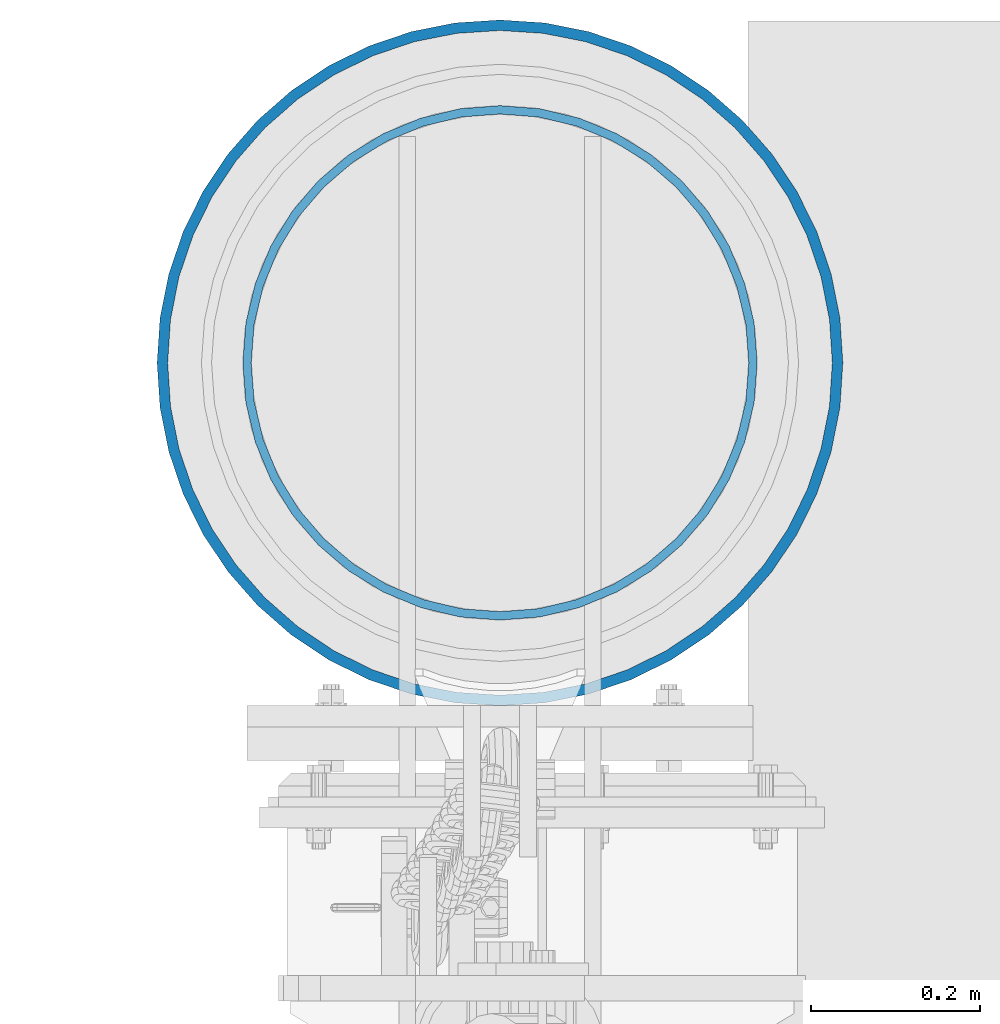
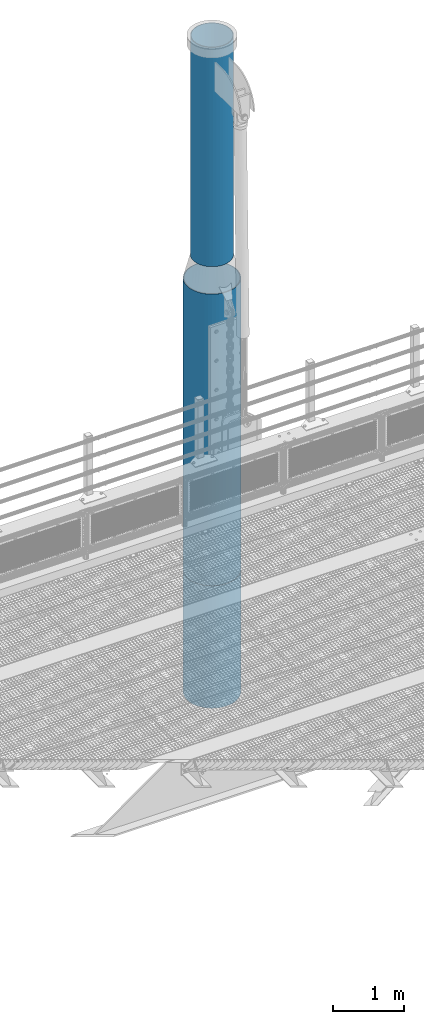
# One storey, part 110 of 1530: 3 columns.
"""IFC2X3 building model written with IfcOpenShell, lengths in millimetres."""

from ifc_helpers import new_model, si_unit, frame, origin_with_axes, place, context, subcontext, project, spatial, faceted_brep, material, type_object, element, save


model = new_model("IFC2X3")

# Units and contexts
model_context = context("Model", 3, precision=1e-05, world=origin_with_axes())
body_context = subcontext(model_context, "Body", "Model", "MODEL_VIEW")
ifc_project = project(units=[si_unit("LENGTHUNIT", "METRE", prefix="MILLI"), si_unit("AREAUNIT", "SQUARE_METRE"), si_unit("VOLUMEUNIT", "CUBIC_METRE"), si_unit("MASSUNIT", "GRAM", prefix="KILO"), si_unit("TIMEUNIT", "SECOND"), si_unit("PLANEANGLEUNIT", "RADIAN"), si_unit("SOLIDANGLEUNIT", "STERADIAN"), si_unit("THERMODYNAMICTEMPERATUREUNIT", "DEGREE_CELSIUS"), si_unit("LUMINOUSINTENSITYUNIT", "LUMEN")], contexts=[model_context])

# Site, building, storey
site_placement = place(None, origin_with_axes())
site = spatial("IfcSite", under=ifc_project, at=site_placement, Name="Brattvåg", CompositionType="ELEMENT")
building_placement = place(site_placement, origin_with_axes())
building = spatial("IfcBuilding", under=site, at=building_placement, Name="Undefined", CompositionType="ELEMENT")
storey_placement = place(building_placement, origin_with_axes())
storey = spatial("IfcBuildingStorey", under=building, at=storey_placement, Name="Undefined", CompositionType="ELEMENT", Elevation=0.0)

# Columns
ifc_material = material(Name="STEEL/Steel_Undefined")
column_type_1 = type_object("IfcColumnType", Name="Ø813*12.5", PredefinedType="NOTDEFINED")
column_1_placement = place(storey_placement, frame((12199.9995346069, 10321.5002708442, -2900.0), z_axis=(-1.0, 1.99999855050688e-09, 0.0), x_axis=(0.0, 0.0, 1.0)))
element("IfcColumn", 1, at=column_1_placement, inside=storey, type_object=column_type_1, material=ifc_material, Name="HEISTÅRN", context=body_context, shape_type="Brep", body=[
    faceted_brep([(0.0, -394.0, 0.0), (0.0, -390.629275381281, 51.4273197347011), (5000.0, -390.629275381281, 51.4273197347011), (5000.0, -394.0, 0.0), (0.0, -380.574775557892, 101.974703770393), (5000.0, -380.574775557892, 101.974703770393), (0.0, -364.008535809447, 150.777272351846), (5000.0, -364.008535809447, 150.777272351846), (0.0, -341.214009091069, 197.0), (5000.0, -341.214009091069, 197.0), (0.0, -312.581216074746, 239.852003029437), (5000.0, -312.581216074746, 239.852003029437), (0.0, -278.600071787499, 278.600071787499), (5000.0, -278.600071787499, 278.600071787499), (0.0, -239.852003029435, 312.581216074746), (5000.0, -239.852003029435, 312.581216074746), (0.0, -197.0, 341.214009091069), (5000.0, -197.0, 341.214009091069), (0.0, -150.777272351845, 364.008535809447), (5000.0, -150.777272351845, 364.008535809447), (0.0, -101.974703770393, 380.574775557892), (5000.0, -101.974703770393, 380.574775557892), (0.0, -51.4273197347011, 390.629275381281), (5000.0, -51.4273197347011, 390.629275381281), (0.0, 0.0, 394.0), (5000.0, 0.0, 394.0), (0.0, 51.4273197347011, 390.629275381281), (5000.0, 51.4273197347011, 390.629275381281), (0.0, 101.974703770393, 380.574775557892), (5000.0, 101.974703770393, 380.574775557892), (0.0, 150.777272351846, 364.008535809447), (5000.0, 150.777272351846, 364.008535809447), (0.0, 197.0, 341.214009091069), (5000.0, 197.0, 341.214009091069), (0.0, 239.852003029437, 312.581216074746), (5000.0, 239.852003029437, 312.581216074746), (0.0, 278.600071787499, 278.600071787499), (5000.0, 278.600071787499, 278.600071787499), (0.0, 312.581216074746, 239.852003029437), (5000.0, 312.581216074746, 239.852003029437), (0.0, 341.214009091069, 197.0), (5000.0, 341.214009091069, 197.0), (0.0, 364.008535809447, 150.777272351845), (5000.0, 364.008535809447, 150.777272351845), (0.0, 380.574775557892, 101.974703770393), (5000.0, 380.574775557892, 101.974703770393), (0.0, 390.629275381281, 51.4273197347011), (5000.0, 390.629275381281, 51.4273197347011), (0.0, 394.0, 0.0), (5000.0, 394.0, 0.0), (0.0, 390.629275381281, -51.4273197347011), (5000.0, 390.629275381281, -51.4273197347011), (0.0, 380.574775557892, -101.974703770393), (5000.0, 380.574775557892, -101.974703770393), (0.0, 364.008535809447, -150.777272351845), (5000.0, 364.008535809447, -150.777272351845), (0.0, 341.214009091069, -197.0), (5000.0, 341.214009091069, -197.0), (0.0, 312.581216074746, -239.852003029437), (5000.0, 312.581216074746, -239.852003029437), (0.0, 278.600071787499, -278.600071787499), (5000.0, 278.600071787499, -278.600071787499), (0.0, 239.852003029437, -312.581216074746), (5000.0, 239.852003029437, -312.581216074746), (0.0, 197.0, -341.214009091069), (5000.0, 197.0, -341.214009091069), (0.0, 150.777272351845, -364.008535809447), (5000.0, 150.777272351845, -364.008535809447), (0.0, 101.974703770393, -380.574775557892), (5000.0, 101.974703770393, -380.574775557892), (0.0, 51.4273197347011, -390.629275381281), (5000.0, 51.4273197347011, -390.629275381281), (0.0, 0.0, -394.0), (5000.0, 0.0, -394.0), (0.0, -51.4273197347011, -390.629275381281), (5000.0, -51.4273197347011, -390.629275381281), (0.0, -101.974703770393, -380.574775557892), (5000.0, -101.974703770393, -380.574775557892), (0.0, -150.777272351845, -364.008535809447), (5000.0, -150.777272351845, -364.008535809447), (0.0, -197.0, -341.214009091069), (5000.0, -197.0, -341.214009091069), (0.0, -239.852003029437, -312.581216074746), (5000.0, -239.852003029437, -312.581216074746), (0.0, -278.600071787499, -278.600071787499), (5000.0, -278.600071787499, -278.600071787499), (0.0, -312.581216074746, -239.852003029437), (5000.0, -312.581216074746, -239.852003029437), (0.0, -341.214009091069, -197.0), (5000.0, -341.214009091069, -197.0), (0.0, -364.008535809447, -150.777272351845), (5000.0, -364.008535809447, -150.777272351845), (0.0, -380.574775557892, -101.974703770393), (5000.0, -380.574775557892, -101.974703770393), (0.0, -390.629275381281, -51.4273197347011), (5000.0, -390.629275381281, -51.4273197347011), (0.0, -406.5, 0.0), (0.0, -403.022336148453, -53.0588971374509), (5000.0, -403.022336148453, -53.0588971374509), (5000.0, -406.5, 0.0), (0.0, -392.648848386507, -105.209941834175), (5000.0, -392.648848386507, -105.209941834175), (0.0, -375.557029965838, -155.560815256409), (5000.0, -375.557029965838, -155.560815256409), (0.0, -352.039326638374, -203.25), (5000.0, -352.039326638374, -203.25), (0.0, -322.498132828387, -247.461520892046), (5000.0, -322.498132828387, -247.461520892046), (0.0, -287.438906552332, -287.438906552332), (5000.0, -287.438906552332, -287.438906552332), (0.0, -247.461520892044, -322.498132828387), (5000.0, -247.461520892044, -322.498132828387), (0.0, -203.25, -352.039326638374), (5000.0, -203.25, -352.039326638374), (0.0, -155.560815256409, -375.557029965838), (5000.0, -155.560815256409, -375.557029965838), (0.0, -105.209941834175, -392.648848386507), (5000.0, -105.209941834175, -392.648848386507), (0.0, -53.0588971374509, -403.022336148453), (5000.0, -53.0588971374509, -403.022336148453), (0.0, 0.0, -406.5), (5000.0, 0.0, -406.5), (0.0, 53.0588971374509, -403.022336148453), (5000.0, 53.0588971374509, -403.022336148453), (0.0, 105.209941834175, -392.648848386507), (5000.0, 105.209941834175, -392.648848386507), (0.0, 155.560815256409, -375.557029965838), (5000.0, 155.560815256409, -375.557029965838), (0.0, 203.25, -352.039326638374), (5000.0, 203.25, -352.039326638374), (0.0, 247.461520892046, -322.498132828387), (5000.0, 247.461520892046, -322.498132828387), (0.0, 287.438906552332, -287.438906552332), (5000.0, 287.438906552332, -287.438906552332), (0.0, 322.498132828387, -247.461520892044), (5000.0, 322.498132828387, -247.461520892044), (0.0, 352.039326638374, -203.25), (5000.0, 352.039326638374, -203.25), (0.0, 375.557029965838, -155.560815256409), (5000.0, 375.557029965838, -155.560815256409), (0.0, 392.648848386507, -105.209941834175), (5000.0, 392.648848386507, -105.209941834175), (0.0, 403.022336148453, -53.0588971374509), (5000.0, 403.022336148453, -53.0588971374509), (0.0, 406.5, 0.0), (5000.0, 406.5, 0.0), (0.0, 403.022336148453, 53.0588971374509), (5000.0, 403.022336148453, 53.0588971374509), (0.0, 392.648848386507, 105.209941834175), (5000.0, 392.648848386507, 105.209941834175), (0.0, 375.557029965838, 155.560815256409), (5000.0, 375.557029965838, 155.560815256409), (0.0, 352.039326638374, 203.25), (5000.0, 352.039326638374, 203.25), (0.0, 322.498132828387, 247.461520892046), (5000.0, 322.498132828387, 247.461520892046), (0.0, 287.438906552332, 287.438906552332), (5000.0, 287.438906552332, 287.438906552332), (0.0, 247.461520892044, 322.498132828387), (5000.0, 247.461520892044, 322.498132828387), (0.0, 203.25, 352.039326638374), (5000.0, 203.25, 352.039326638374), (0.0, 155.560815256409, 375.557029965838), (5000.0, 155.560815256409, 375.557029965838), (0.0, 105.209941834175, 392.648848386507), (5000.0, 105.209941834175, 392.648848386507), (0.0, 53.0588971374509, 403.022336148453), (5000.0, 53.0588971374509, 403.022336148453), (0.0, 0.0, 406.5), (5000.0, 0.0, 406.5), (0.0, -53.0588971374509, 403.022336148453), (5000.0, -53.0588971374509, 403.022336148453), (0.0, -105.209941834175, 392.648848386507), (5000.0, -105.209941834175, 392.648848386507), (0.0, -155.560815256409, 375.557029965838), (5000.0, -155.560815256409, 375.557029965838), (0.0, -203.25, 352.039326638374), (5000.0, -203.25, 352.039326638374), (0.0, -247.461520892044, 322.498132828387), (5000.0, -247.461520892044, 322.498132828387), (0.0, -287.438906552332, 287.438906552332), (5000.0, -287.438906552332, 287.438906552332), (0.0, -322.498132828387, 247.461520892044), (5000.0, -322.498132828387, 247.461520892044), (0.0, -352.039326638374, 203.25), (5000.0, -352.039326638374, 203.25), (0.0, -375.557029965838, 155.560815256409), (5000.0, -375.557029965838, 155.560815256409), (0.0, -392.648848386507, 105.209941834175), (5000.0, -392.648848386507, 105.209941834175), (0.0, -403.022336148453, 53.0588971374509), (5000.0, -403.022336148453, 53.0588971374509)], [[[0, 1, 2, 3]], [[1, 4, 5, 2]], [[4, 6, 7, 5]], [[6, 8, 9, 7]], [[8, 10, 11, 9]], [[10, 12, 13, 11]], [[12, 14, 15, 13]], [[14, 16, 17, 15]], [[16, 18, 19, 17]], [[18, 20, 21, 19]], [[20, 22, 23, 21]], [[22, 24, 25, 23]], [[24, 26, 27, 25]], [[26, 28, 29, 27]], [[28, 30, 31, 29]], [[30, 32, 33, 31]], [[32, 34, 35, 33]], [[34, 36, 37, 35]], [[36, 38, 39, 37]], [[38, 40, 41, 39]], [[40, 42, 43, 41]], [[42, 44, 45, 43]], [[44, 46, 47, 45]], [[46, 48, 49, 47]], [[48, 50, 51, 49]], [[50, 52, 53, 51]], [[52, 54, 55, 53]], [[54, 56, 57, 55]], [[56, 58, 59, 57]], [[58, 60, 61, 59]], [[60, 62, 63, 61]], [[62, 64, 65, 63]], [[64, 66, 67, 65]], [[66, 68, 69, 67]], [[68, 70, 71, 69]], [[70, 72, 73, 71]], [[72, 74, 75, 73]], [[74, 76, 77, 75]], [[76, 78, 79, 77]], [[78, 80, 81, 79]], [[80, 82, 83, 81]], [[82, 84, 85, 83]], [[84, 86, 87, 85]], [[86, 88, 89, 87]], [[88, 90, 91, 89]], [[90, 92, 93, 91]], [[92, 94, 95, 93]], [[94, 0, 3, 95]], [[96, 97, 98, 99]], [[97, 100, 101, 98]], [[100, 102, 103, 101]], [[102, 104, 105, 103]], [[104, 106, 107, 105]], [[106, 108, 109, 107]], [[108, 110, 111, 109]], [[110, 112, 113, 111]], [[112, 114, 115, 113]], [[114, 116, 117, 115]], [[116, 118, 119, 117]], [[118, 120, 121, 119]], [[120, 122, 123, 121]], [[122, 124, 125, 123]], [[124, 126, 127, 125]], [[126, 128, 129, 127]], [[128, 130, 131, 129]], [[130, 132, 133, 131]], [[132, 134, 135, 133]], [[134, 136, 137, 135]], [[136, 138, 139, 137]], [[138, 140, 141, 139]], [[140, 142, 143, 141]], [[142, 144, 145, 143]], [[144, 146, 147, 145]], [[146, 148, 149, 147]], [[148, 150, 151, 149]], [[150, 152, 153, 151]], [[152, 154, 155, 153]], [[154, 156, 157, 155]], [[156, 158, 159, 157]], [[158, 160, 161, 159]], [[160, 162, 163, 161]], [[162, 164, 165, 163]], [[164, 166, 167, 165]], [[166, 168, 169, 167]], [[168, 170, 171, 169]], [[170, 172, 173, 171]], [[172, 174, 175, 173]], [[174, 176, 177, 175]], [[176, 178, 179, 177]], [[178, 180, 181, 179]], [[180, 182, 183, 181]], [[182, 184, 185, 183]], [[184, 186, 187, 185]], [[186, 188, 189, 187]], [[188, 190, 191, 189]], [[190, 96, 99, 191]], [[101, 103, 105, 107, 109, 111, 113, 115, 117, 119, 121, 123, 125, 127, 129, 131, 133, 135, 137, 139, 141, 143, 145, 147, 149, 151, 153, 155, 157, 159, 161, 163, 165, 167, 169, 171, 173, 175, 177, 179, 181, 183, 185, 187, 189, 191, 99, 98], [5, 7, 9, 11, 13, 15, 17, 19, 21, 23, 25, 27, 29, 31, 33, 35, 37, 39, 41, 43, 45, 47, 49, 51, 53, 55, 57, 59, 61, 63, 65, 67, 69, 71, 73, 75, 77, 79, 81, 83, 85, 87, 89, 91, 93, 95, 3, 2]], [[190, 188, 186, 184, 182, 180, 178, 176, 174, 172, 170, 168, 166, 164, 162, 160, 158, 156, 154, 152, 150, 148, 146, 144, 142, 140, 138, 136, 134, 132, 130, 128, 126, 124, 122, 120, 118, 116, 114, 112, 110, 108, 106, 104, 102, 100, 97, 96], [94, 92, 90, 88, 86, 84, 82, 80, 78, 76, 74, 72, 70, 68, 66, 64, 62, 60, 58, 56, 54, 52, 50, 48, 46, 44, 42, 40, 38, 36, 34, 32, 30, 28, 26, 24, 22, 20, 18, 16, 14, 12, 10, 8, 6, 4, 1, 0]]]),
])
column_2_placement = place(storey_placement, frame((12199.9995346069, 10321.5002708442, -5000.0), z_axis=(-1.0, 1.99999855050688e-09, 0.0), x_axis=(0.0, 0.0, 1.0)))
element("IfcColumn", 2, at=column_2_placement, inside=storey, type_object=column_type_1, material=ifc_material, Name="HEISTÅRN", context=body_context, shape_type="Brep", body=[
    faceted_brep([(0.0, -394.0, 0.0), (0.0, -390.629275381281, 51.4273197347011), (2100.0, -390.629275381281, 51.4273197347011), (2100.0, -394.0, 0.0), (0.0, -380.574775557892, 101.974703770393), (2100.0, -380.574775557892, 101.974703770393), (0.0, -364.008535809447, 150.777272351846), (2100.0, -364.008535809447, 150.777272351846), (0.0, -341.214009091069, 197.0), (2100.0, -341.214009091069, 197.0), (0.0, -312.581216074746, 239.852003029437), (2100.0, -312.581216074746, 239.852003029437), (0.0, -278.600071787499, 278.600071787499), (2100.0, -278.600071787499, 278.600071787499), (0.0, -239.852003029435, 312.581216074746), (2100.0, -239.852003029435, 312.581216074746), (0.0, -197.0, 341.214009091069), (2100.0, -197.0, 341.214009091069), (0.0, -150.777272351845, 364.008535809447), (2100.0, -150.777272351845, 364.008535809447), (0.0, -101.974703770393, 380.574775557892), (2100.0, -101.974703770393, 380.574775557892), (0.0, -51.4273197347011, 390.629275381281), (2100.0, -51.4273197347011, 390.629275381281), (0.0, 0.0, 394.0), (2100.0, 0.0, 394.0), (0.0, 51.4273197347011, 390.629275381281), (2100.0, 51.4273197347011, 390.629275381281), (0.0, 101.974703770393, 380.574775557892), (2100.0, 101.974703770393, 380.574775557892), (0.0, 150.777272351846, 364.008535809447), (2100.0, 150.777272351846, 364.008535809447), (0.0, 197.0, 341.214009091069), (2100.0, 197.0, 341.214009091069), (0.0, 239.852003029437, 312.581216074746), (2100.0, 239.852003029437, 312.581216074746), (0.0, 278.600071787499, 278.600071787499), (2100.0, 278.600071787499, 278.600071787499), (0.0, 312.581216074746, 239.852003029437), (2100.0, 312.581216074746, 239.852003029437), (0.0, 341.214009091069, 197.0), (2100.0, 341.214009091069, 197.0), (0.0, 364.008535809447, 150.777272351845), (2100.0, 364.008535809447, 150.777272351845), (0.0, 380.574775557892, 101.974703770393), (2100.0, 380.574775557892, 101.974703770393), (0.0, 390.629275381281, 51.4273197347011), (2100.0, 390.629275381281, 51.4273197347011), (0.0, 394.0, 0.0), (2100.0, 394.0, 0.0), (0.0, 390.629275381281, -51.4273197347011), (2100.0, 390.629275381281, -51.4273197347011), (0.0, 380.574775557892, -101.974703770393), (2100.0, 380.574775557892, -101.974703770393), (0.0, 364.008535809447, -150.777272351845), (2100.0, 364.008535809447, -150.777272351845), (0.0, 341.214009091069, -197.0), (2100.0, 341.214009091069, -197.0), (0.0, 312.581216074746, -239.852003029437), (2100.0, 312.581216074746, -239.852003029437), (0.0, 278.600071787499, -278.600071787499), (2100.0, 278.600071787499, -278.600071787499), (0.0, 239.852003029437, -312.581216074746), (2100.0, 239.852003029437, -312.581216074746), (0.0, 197.0, -341.214009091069), (2100.0, 197.0, -341.214009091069), (0.0, 150.777272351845, -364.008535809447), (2100.0, 150.777272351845, -364.008535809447), (0.0, 101.974703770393, -380.574775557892), (2100.0, 101.974703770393, -380.574775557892), (0.0, 51.4273197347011, -390.629275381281), (2100.0, 51.4273197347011, -390.629275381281), (0.0, 0.0, -394.0), (2100.0, 0.0, -394.0), (0.0, -51.4273197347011, -390.629275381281), (2100.0, -51.4273197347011, -390.629275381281), (0.0, -101.974703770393, -380.574775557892), (2100.0, -101.974703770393, -380.574775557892), (0.0, -150.777272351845, -364.008535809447), (2100.0, -150.777272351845, -364.008535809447), (0.0, -197.0, -341.214009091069), (2100.0, -197.0, -341.214009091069), (0.0, -239.852003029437, -312.581216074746), (2100.0, -239.852003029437, -312.581216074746), (0.0, -278.600071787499, -278.600071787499), (2100.0, -278.600071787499, -278.600071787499), (0.0, -312.581216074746, -239.852003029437), (2100.0, -312.581216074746, -239.852003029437), (0.0, -341.214009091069, -197.0), (2100.0, -341.214009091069, -197.0), (0.0, -364.008535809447, -150.777272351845), (2100.0, -364.008535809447, -150.777272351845), (0.0, -380.574775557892, -101.974703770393), (2100.0, -380.574775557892, -101.974703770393), (0.0, -390.629275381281, -51.4273197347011), (2100.0, -390.629275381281, -51.4273197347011), (0.0, -406.5, 0.0), (0.0, -403.022336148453, -53.0588971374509), (2100.0, -403.022336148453, -53.0588971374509), (2100.0, -406.5, 0.0), (0.0, -392.648848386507, -105.209941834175), (2100.0, -392.648848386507, -105.209941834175), (0.0, -375.557029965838, -155.560815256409), (2100.0, -375.557029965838, -155.560815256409), (0.0, -352.039326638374, -203.25), (2100.0, -352.039326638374, -203.25), (0.0, -322.498132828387, -247.461520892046), (2100.0, -322.498132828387, -247.461520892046), (0.0, -287.438906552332, -287.438906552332), (2100.0, -287.438906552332, -287.438906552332), (0.0, -247.461520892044, -322.498132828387), (2100.0, -247.461520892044, -322.498132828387), (0.0, -203.25, -352.039326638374), (2100.0, -203.25, -352.039326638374), (0.0, -155.560815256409, -375.557029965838), (2100.0, -155.560815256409, -375.557029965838), (0.0, -105.209941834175, -392.648848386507), (2100.0, -105.209941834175, -392.648848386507), (0.0, -53.0588971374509, -403.022336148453), (2100.0, -53.0588971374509, -403.022336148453), (0.0, 0.0, -406.5), (2100.0, 0.0, -406.5), (0.0, 53.0588971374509, -403.022336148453), (2100.0, 53.0588971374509, -403.022336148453), (0.0, 105.209941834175, -392.648848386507), (2100.0, 105.209941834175, -392.648848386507), (0.0, 155.560815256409, -375.557029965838), (2100.0, 155.560815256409, -375.557029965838), (0.0, 203.25, -352.039326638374), (2100.0, 203.25, -352.039326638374), (0.0, 247.461520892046, -322.498132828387), (2100.0, 247.461520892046, -322.498132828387), (0.0, 287.438906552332, -287.438906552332), (2100.0, 287.438906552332, -287.438906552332), (0.0, 322.498132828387, -247.461520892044), (2100.0, 322.498132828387, -247.461520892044), (0.0, 352.039326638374, -203.25), (2100.0, 352.039326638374, -203.25), (0.0, 375.557029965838, -155.560815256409), (2100.0, 375.557029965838, -155.560815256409), (0.0, 392.648848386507, -105.209941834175), (2100.0, 392.648848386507, -105.209941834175), (0.0, 403.022336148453, -53.0588971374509), (2100.0, 403.022336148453, -53.0588971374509), (0.0, 406.5, 0.0), (2100.0, 406.5, 0.0), (0.0, 403.022336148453, 53.0588971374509), (2100.0, 403.022336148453, 53.0588971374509), (0.0, 392.648848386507, 105.209941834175), (2100.0, 392.648848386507, 105.209941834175), (0.0, 375.557029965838, 155.560815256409), (2100.0, 375.557029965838, 155.560815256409), (0.0, 352.039326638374, 203.25), (2100.0, 352.039326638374, 203.25), (0.0, 322.498132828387, 247.461520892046), (2100.0, 322.498132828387, 247.461520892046), (0.0, 287.438906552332, 287.438906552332), (2100.0, 287.438906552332, 287.438906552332), (0.0, 247.461520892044, 322.498132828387), (2100.0, 247.461520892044, 322.498132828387), (0.0, 203.25, 352.039326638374), (2100.0, 203.25, 352.039326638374), (0.0, 155.560815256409, 375.557029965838), (2100.0, 155.560815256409, 375.557029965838), (0.0, 105.209941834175, 392.648848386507), (2100.0, 105.209941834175, 392.648848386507), (0.0, 53.0588971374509, 403.022336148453), (2100.0, 53.0588971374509, 403.022336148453), (0.0, 0.0, 406.5), (2100.0, 0.0, 406.5), (0.0, -53.0588971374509, 403.022336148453), (2100.0, -53.0588971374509, 403.022336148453), (0.0, -105.209941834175, 392.648848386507), (2100.0, -105.209941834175, 392.648848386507), (0.0, -155.560815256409, 375.557029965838), (2100.0, -155.560815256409, 375.557029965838), (0.0, -203.25, 352.039326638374), (2100.0, -203.25, 352.039326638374), (0.0, -247.461520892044, 322.498132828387), (2100.0, -247.461520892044, 322.498132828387), (0.0, -287.438906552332, 287.438906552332), (2100.0, -287.438906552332, 287.438906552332), (0.0, -322.498132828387, 247.461520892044), (2100.0, -322.498132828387, 247.461520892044), (0.0, -352.039326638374, 203.25), (2100.0, -352.039326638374, 203.25), (0.0, -375.557029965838, 155.560815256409), (2100.0, -375.557029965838, 155.560815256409), (0.0, -392.648848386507, 105.209941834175), (2100.0, -392.648848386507, 105.209941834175), (0.0, -403.022336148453, 53.0588971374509), (2100.0, -403.022336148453, 53.0588971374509)], [[[0, 1, 2, 3]], [[1, 4, 5, 2]], [[4, 6, 7, 5]], [[6, 8, 9, 7]], [[8, 10, 11, 9]], [[10, 12, 13, 11]], [[12, 14, 15, 13]], [[14, 16, 17, 15]], [[16, 18, 19, 17]], [[18, 20, 21, 19]], [[20, 22, 23, 21]], [[22, 24, 25, 23]], [[24, 26, 27, 25]], [[26, 28, 29, 27]], [[28, 30, 31, 29]], [[30, 32, 33, 31]], [[32, 34, 35, 33]], [[34, 36, 37, 35]], [[36, 38, 39, 37]], [[38, 40, 41, 39]], [[40, 42, 43, 41]], [[42, 44, 45, 43]], [[44, 46, 47, 45]], [[46, 48, 49, 47]], [[48, 50, 51, 49]], [[50, 52, 53, 51]], [[52, 54, 55, 53]], [[54, 56, 57, 55]], [[56, 58, 59, 57]], [[58, 60, 61, 59]], [[60, 62, 63, 61]], [[62, 64, 65, 63]], [[64, 66, 67, 65]], [[66, 68, 69, 67]], [[68, 70, 71, 69]], [[70, 72, 73, 71]], [[72, 74, 75, 73]], [[74, 76, 77, 75]], [[76, 78, 79, 77]], [[78, 80, 81, 79]], [[80, 82, 83, 81]], [[82, 84, 85, 83]], [[84, 86, 87, 85]], [[86, 88, 89, 87]], [[88, 90, 91, 89]], [[90, 92, 93, 91]], [[92, 94, 95, 93]], [[94, 0, 3, 95]], [[96, 97, 98, 99]], [[97, 100, 101, 98]], [[100, 102, 103, 101]], [[102, 104, 105, 103]], [[104, 106, 107, 105]], [[106, 108, 109, 107]], [[108, 110, 111, 109]], [[110, 112, 113, 111]], [[112, 114, 115, 113]], [[114, 116, 117, 115]], [[116, 118, 119, 117]], [[118, 120, 121, 119]], [[120, 122, 123, 121]], [[122, 124, 125, 123]], [[124, 126, 127, 125]], [[126, 128, 129, 127]], [[128, 130, 131, 129]], [[130, 132, 133, 131]], [[132, 134, 135, 133]], [[134, 136, 137, 135]], [[136, 138, 139, 137]], [[138, 140, 141, 139]], [[140, 142, 143, 141]], [[142, 144, 145, 143]], [[144, 146, 147, 145]], [[146, 148, 149, 147]], [[148, 150, 151, 149]], [[150, 152, 153, 151]], [[152, 154, 155, 153]], [[154, 156, 157, 155]], [[156, 158, 159, 157]], [[158, 160, 161, 159]], [[160, 162, 163, 161]], [[162, 164, 165, 163]], [[164, 166, 167, 165]], [[166, 168, 169, 167]], [[168, 170, 171, 169]], [[170, 172, 173, 171]], [[172, 174, 175, 173]], [[174, 176, 177, 175]], [[176, 178, 179, 177]], [[178, 180, 181, 179]], [[180, 182, 183, 181]], [[182, 184, 185, 183]], [[184, 186, 187, 185]], [[186, 188, 189, 187]], [[188, 190, 191, 189]], [[190, 96, 99, 191]], [[101, 103, 105, 107, 109, 111, 113, 115, 117, 119, 121, 123, 125, 127, 129, 131, 133, 135, 137, 139, 141, 143, 145, 147, 149, 151, 153, 155, 157, 159, 161, 163, 165, 167, 169, 171, 173, 175, 177, 179, 181, 183, 185, 187, 189, 191, 99, 98], [5, 7, 9, 11, 13, 15, 17, 19, 21, 23, 25, 27, 29, 31, 33, 35, 37, 39, 41, 43, 45, 47, 49, 51, 53, 55, 57, 59, 61, 63, 65, 67, 69, 71, 73, 75, 77, 79, 81, 83, 85, 87, 89, 91, 93, 95, 3, 2]], [[190, 188, 186, 184, 182, 180, 178, 176, 174, 172, 170, 168, 166, 164, 162, 160, 158, 156, 154, 152, 150, 148, 146, 144, 142, 140, 138, 136, 134, 132, 130, 128, 126, 124, 122, 120, 118, 116, 114, 112, 110, 108, 106, 104, 102, 100, 97, 96], [94, 92, 90, 88, 86, 84, 82, 80, 78, 76, 74, 72, 70, 68, 66, 64, 62, 60, 58, 56, 54, 52, 50, 48, 46, 44, 42, 40, 38, 36, 34, 32, 30, 28, 26, 24, 22, 20, 18, 16, 14, 12, 10, 8, 6, 4, 1, 0]]]),
])
column_type_2 = type_object("IfcColumnType", Name="Ø610*10", PredefinedType="NOTDEFINED")
column_3_placement = place(storey_placement, frame((12199.9995346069, 10321.5002708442, 2500.0), z_axis=(-1.0, 1.99999855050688e-09, 0.0), x_axis=(0.0, 0.0, 1.0)))
element("IfcColumn", 3, at=column_3_placement, inside=storey, type_object=column_type_2, material=ifc_material, Name="HEISTÅRN", context=body_context, shape_type="Brep", body=[
    faceted_brep([(0.0, -295.0, 0.0), (0.0, -291.368060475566, 46.1481671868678), (3760.0, -291.368060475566, 46.1481671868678), (3760.0, -295.0, 0.0), (0.0, -280.561672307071, 91.16001334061), (3760.0, -280.561672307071, 91.16001334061), (0.0, -262.846924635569, 133.927197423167), (3760.0, -262.846924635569, 133.927197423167), (0.0, -238.66001334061, 173.39664942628), (3760.0, -238.66001334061, 173.39664942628), (0.0, -208.596500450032, 208.596500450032), (3760.0, -208.596500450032, 208.596500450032), (0.0, -173.396649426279, 238.66001334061), (3760.0, -173.396649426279, 238.66001334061), (0.0, -133.927197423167, 262.846924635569), (3760.0, -133.927197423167, 262.846924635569), (0.0, -91.16001334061, 280.561672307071), (3760.0, -91.16001334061, 280.561672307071), (0.0, -46.1481671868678, 291.368060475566), (3760.0, -46.1481671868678, 291.368060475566), (0.0, 0.0, 295.0), (3760.0, 0.0, 295.0), (0.0, 46.1481671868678, 291.368060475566), (3760.0, 46.1481671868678, 291.368060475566), (0.0, 91.16001334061, 280.561672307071), (3760.0, 91.16001334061, 280.561672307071), (0.0, 133.927197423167, 262.846924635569), (3760.0, 133.927197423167, 262.846924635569), (0.0, 173.39664942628, 238.66001334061), (3760.0, 173.39664942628, 238.66001334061), (0.0, 208.596500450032, 208.596500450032), (3760.0, 208.596500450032, 208.596500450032), (0.0, 238.66001334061, 173.39664942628), (3760.0, 238.66001334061, 173.39664942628), (0.0, 262.846924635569, 133.927197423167), (3760.0, 262.846924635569, 133.927197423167), (0.0, 280.561672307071, 91.16001334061), (3760.0, 280.561672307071, 91.16001334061), (0.0, 291.368060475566, 46.1481671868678), (3760.0, 291.368060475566, 46.1481671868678), (0.0, 295.0, 0.0), (3760.0, 295.0, 0.0), (0.0, 291.368060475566, -46.1481671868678), (3760.0, 291.368060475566, -46.1481671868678), (0.0, 280.561672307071, -91.16001334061), (3760.0, 280.561672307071, -91.16001334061), (0.0, 262.846924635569, -133.927197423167), (3760.0, 262.846924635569, -133.927197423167), (0.0, 238.66001334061, -173.39664942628), (3760.0, 238.66001334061, -173.39664942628), (0.0, 208.596500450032, -208.596500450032), (3760.0, 208.596500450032, -208.596500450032), (0.0, 173.39664942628, -238.66001334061), (3760.0, 173.39664942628, -238.66001334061), (0.0, 133.927197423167, -262.846924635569), (3760.0, 133.927197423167, -262.846924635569), (0.0, 91.16001334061, -280.561672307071), (3760.0, 91.16001334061, -280.561672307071), (0.0, 46.1481671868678, -291.368060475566), (3760.0, 46.1481671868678, -291.368060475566), (0.0, 0.0, -295.0), (3760.0, 0.0, -295.0), (0.0, -46.1481671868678, -291.368060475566), (3760.0, -46.1481671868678, -291.368060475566), (0.0, -91.16001334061, -280.561672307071), (3760.0, -91.16001334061, -280.561672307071), (0.0, -133.927197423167, -262.846924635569), (3760.0, -133.927197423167, -262.846924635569), (0.0, -173.39664942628, -238.66001334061), (3760.0, -173.39664942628, -238.66001334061), (0.0, -208.596500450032, -208.596500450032), (3760.0, -208.596500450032, -208.596500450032), (0.0, -238.66001334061, -173.39664942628), (3760.0, -238.66001334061, -173.39664942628), (0.0, -262.846924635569, -133.927197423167), (3760.0, -262.846924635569, -133.927197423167), (0.0, -280.561672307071, -91.16001334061), (3760.0, -280.561672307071, -91.16001334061), (0.0, -291.368060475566, -46.1481671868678), (3760.0, -291.368060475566, -46.1481671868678), (0.0, -305.0, 0.0), (0.0, -301.244943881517, -47.7125118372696), (3760.0, -301.244943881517, -47.7125118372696), (3760.0, -305.0, 0.0), (0.0, -290.072237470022, -94.2501832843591), (3760.0, -290.072237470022, -94.2501832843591), (0.0, -271.756989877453, -138.467102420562), (3760.0, -271.756989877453, -138.467102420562), (0.0, -246.750183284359, -179.274501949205), (3760.0, -246.750183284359, -179.274501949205), (0.0, -215.667568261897, -215.667568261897), (3760.0, -215.667568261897, -215.667568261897), (0.0, -179.274501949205, -246.750183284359), (3760.0, -179.274501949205, -246.750183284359), (0.0, -138.467102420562, -271.756989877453), (3760.0, -138.467102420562, -271.756989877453), (0.0, -94.2501832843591, -290.072237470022), (3760.0, -94.2501832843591, -290.072237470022), (0.0, -47.7125118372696, -301.244943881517), (3760.0, -47.7125118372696, -301.244943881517), (0.0, 0.0, -305.0), (3760.0, 0.0, -305.0), (0.0, 47.7125118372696, -301.244943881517), (3760.0, 47.7125118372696, -301.244943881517), (0.0, 94.2501832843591, -290.072237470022), (3760.0, 94.2501832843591, -290.072237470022), (0.0, 138.467102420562, -271.756989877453), (3760.0, 138.467102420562, -271.756989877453), (0.0, 179.274501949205, -246.750183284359), (3760.0, 179.274501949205, -246.750183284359), (0.0, 215.667568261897, -215.667568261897), (3760.0, 215.667568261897, -215.667568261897), (0.0, 246.750183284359, -179.274501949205), (3760.0, 246.750183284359, -179.274501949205), (0.0, 271.756989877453, -138.467102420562), (3760.0, 271.756989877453, -138.467102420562), (0.0, 290.072237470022, -94.2501832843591), (3760.0, 290.072237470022, -94.2501832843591), (0.0, 301.244943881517, -47.7125118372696), (3760.0, 301.244943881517, -47.7125118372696), (0.0, 305.0, 0.0), (3760.0, 305.0, 0.0), (0.0, 301.244943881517, 47.7125118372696), (3760.0, 301.244943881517, 47.7125118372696), (0.0, 290.072237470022, 94.2501832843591), (3760.0, 290.072237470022, 94.2501832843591), (0.0, 271.756989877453, 138.467102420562), (3760.0, 271.756989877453, 138.467102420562), (0.0, 246.750183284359, 179.274501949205), (3760.0, 246.750183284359, 179.274501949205), (0.0, 215.667568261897, 215.667568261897), (3760.0, 215.667568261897, 215.667568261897), (0.0, 179.274501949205, 246.750183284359), (3760.0, 179.274501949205, 246.750183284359), (0.0, 138.467102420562, 271.756989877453), (3760.0, 138.467102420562, 271.756989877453), (0.0, 94.2501832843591, 290.072237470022), (3760.0, 94.2501832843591, 290.072237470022), (0.0, 47.7125118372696, 301.244943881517), (3760.0, 47.7125118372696, 301.244943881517), (0.0, 0.0, 305.0), (3760.0, 0.0, 305.0), (0.0, -47.7125118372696, 301.244943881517), (3760.0, -47.7125118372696, 301.244943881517), (0.0, -94.2501832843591, 290.072237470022), (3760.0, -94.2501832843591, 290.072237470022), (0.0, -138.467102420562, 271.756989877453), (3760.0, -138.467102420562, 271.756989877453), (0.0, -179.274501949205, 246.750183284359), (3760.0, -179.274501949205, 246.750183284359), (0.0, -215.667568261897, 215.667568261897), (3760.0, -215.667568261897, 215.667568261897), (0.0, -246.750183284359, 179.274501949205), (3760.0, -246.750183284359, 179.274501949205), (0.0, -271.756989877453, 138.467102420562), (3760.0, -271.756989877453, 138.467102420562), (0.0, -290.072237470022, 94.2501832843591), (3760.0, -290.072237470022, 94.2501832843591), (0.0, -301.244943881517, 47.7125118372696), (3760.0, -301.244943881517, 47.7125118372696)], [[[0, 1, 2, 3]], [[1, 4, 5, 2]], [[4, 6, 7, 5]], [[6, 8, 9, 7]], [[8, 10, 11, 9]], [[10, 12, 13, 11]], [[12, 14, 15, 13]], [[14, 16, 17, 15]], [[16, 18, 19, 17]], [[18, 20, 21, 19]], [[20, 22, 23, 21]], [[22, 24, 25, 23]], [[24, 26, 27, 25]], [[26, 28, 29, 27]], [[28, 30, 31, 29]], [[30, 32, 33, 31]], [[32, 34, 35, 33]], [[34, 36, 37, 35]], [[36, 38, 39, 37]], [[38, 40, 41, 39]], [[40, 42, 43, 41]], [[42, 44, 45, 43]], [[44, 46, 47, 45]], [[46, 48, 49, 47]], [[48, 50, 51, 49]], [[50, 52, 53, 51]], [[52, 54, 55, 53]], [[54, 56, 57, 55]], [[56, 58, 59, 57]], [[58, 60, 61, 59]], [[60, 62, 63, 61]], [[62, 64, 65, 63]], [[64, 66, 67, 65]], [[66, 68, 69, 67]], [[68, 70, 71, 69]], [[70, 72, 73, 71]], [[72, 74, 75, 73]], [[74, 76, 77, 75]], [[76, 78, 79, 77]], [[78, 0, 3, 79]], [[80, 81, 82, 83]], [[81, 84, 85, 82]], [[84, 86, 87, 85]], [[86, 88, 89, 87]], [[88, 90, 91, 89]], [[90, 92, 93, 91]], [[92, 94, 95, 93]], [[94, 96, 97, 95]], [[96, 98, 99, 97]], [[98, 100, 101, 99]], [[100, 102, 103, 101]], [[102, 104, 105, 103]], [[104, 106, 107, 105]], [[106, 108, 109, 107]], [[108, 110, 111, 109]], [[110, 112, 113, 111]], [[112, 114, 115, 113]], [[114, 116, 117, 115]], [[116, 118, 119, 117]], [[118, 120, 121, 119]], [[120, 122, 123, 121]], [[122, 124, 125, 123]], [[124, 126, 127, 125]], [[126, 128, 129, 127]], [[128, 130, 131, 129]], [[130, 132, 133, 131]], [[132, 134, 135, 133]], [[134, 136, 137, 135]], [[136, 138, 139, 137]], [[138, 140, 141, 139]], [[140, 142, 143, 141]], [[142, 144, 145, 143]], [[144, 146, 147, 145]], [[146, 148, 149, 147]], [[148, 150, 151, 149]], [[150, 152, 153, 151]], [[152, 154, 155, 153]], [[154, 156, 157, 155]], [[156, 158, 159, 157]], [[158, 80, 83, 159]], [[85, 87, 89, 91, 93, 95, 97, 99, 101, 103, 105, 107, 109, 111, 113, 115, 117, 119, 121, 123, 125, 127, 129, 131, 133, 135, 137, 139, 141, 143, 145, 147, 149, 151, 153, 155, 157, 159, 83, 82], [5, 7, 9, 11, 13, 15, 17, 19, 21, 23, 25, 27, 29, 31, 33, 35, 37, 39, 41, 43, 45, 47, 49, 51, 53, 55, 57, 59, 61, 63, 65, 67, 69, 71, 73, 75, 77, 79, 3, 2]], [[158, 156, 154, 152, 150, 148, 146, 144, 142, 140, 138, 136, 134, 132, 130, 128, 126, 124, 122, 120, 118, 116, 114, 112, 110, 108, 106, 104, 102, 100, 98, 96, 94, 92, 90, 88, 86, 84, 81, 80], [78, 76, 74, 72, 70, 68, 66, 64, 62, 60, 58, 56, 54, 52, 50, 48, 46, 44, 42, 40, 38, 36, 34, 32, 30, 28, 26, 24, 22, 20, 18, 16, 14, 12, 10, 8, 6, 4, 1, 0]]]),
])

save(model, "model.ifc")
